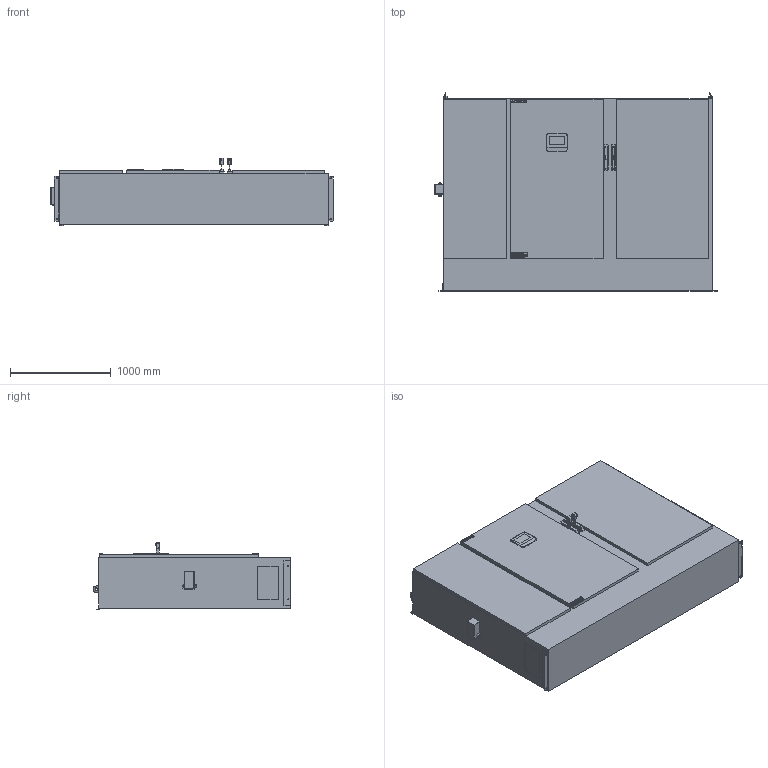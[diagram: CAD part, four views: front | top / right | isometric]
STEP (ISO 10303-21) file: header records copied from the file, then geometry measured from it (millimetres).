
FILE_DESCRIPTION (( 'STEP AP214' ), '1' );
FILE_NAME ('UL FM Electric FPC - Size 4B+4D - Tornatech.STEP', '2024-03-25T17:39:14', ( '' ), ( '' ), 'SwSTEP 2.0', 'SolidWorks 2023', '' );
FILE_SCHEMA (( 'AUTOMOTIVE_DESIGN' ));
Products named in the file (1): UL FM Electric FPC - Size 4B+4D - Tornatech
Bounding box: 2801.8 x 1964.4 x 665.79 mm (x, y, z)
Volume: 2701823512.2 mm3; surface area: 15501556.7 mm2
Topology: 1 solids, 6 shells, 5347 faces, 14247 edges, 9461 vertices
Faces by surface type: plane 2783, bspline 2431, cylinder 104, sphere 28, torus 1
Full cylindrical faces by diameter (mm): 7.59 x2, 10 x2, 10.16 x4, 12.7 x4, 18.6 x1, 20.32 x1, 25.4 x2
Entity records: 273937 total; most frequent: CARTESIAN_POINT 157474, ORIENTED_EDGE 28412, DIRECTION 15358, EDGE_CURVE 14206, VERTEX_POINT 9445, LINE 9128, VECTOR 9128, EDGE_LOOP 5937
